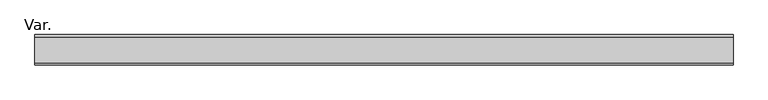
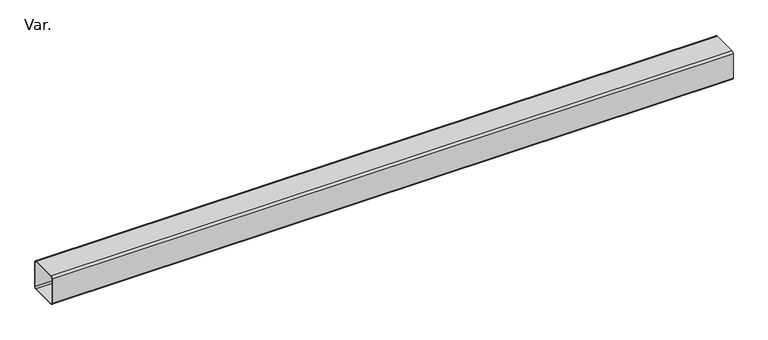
"""IFC4 building model written with IfcOpenShell, lengths in millimetres: pipe fitting geometry, PavcoWavin_UnionesDeTuberia_ZBajante Tradicional_NoUsarUnion : Var.."""

from ifc_helpers import new_model, si_unit, point, frame, frame_2d, origin, place, context, project, spatial, polyline, circle_curve, trimmed, segment, composite_curve, outline, extrude, source, transform, mapped, element, save


def var_3a2b953e(model_context):
    return source(origin(), model_context, "Body", "SweptSolid", [
        extrude(outline(composite_curve([segment(polyline([(32.665, 28.145), (32.665, -28.145)]), True, "CONTINUOUS"), segment(trimmed(circle_curve(frame_2d((28.145, -28.145)), 4.52), [point((32.665, -28.145))], [point((28.145, -32.665))], False, "CARTESIAN"), True, "CONTINUOUS"), segment(polyline([(28.145, -32.665), (-28.145, -32.665)]), True, "CONTINUOUS"), segment(trimmed(circle_curve(frame_2d((-28.145, -28.145)), 4.52), [point((-28.145, -32.665))], [point((-32.665, -28.145))], False, "CARTESIAN"), True, "CONTINUOUS"), segment(polyline([(-32.665, -28.145), (-32.665, 28.145)]), True, "CONTINUOUS"), segment(trimmed(circle_curve(frame_2d((-28.145, 28.145)), 4.52), [point((-32.665, 28.145))], [point((-28.145, 32.665))], False, "CARTESIAN"), True, "CONTINUOUS"), segment(polyline([(-28.145, 32.665), (28.145, 32.665)]), True, "CONTINUOUS"), segment(trimmed(circle_curve(frame_2d((28.145, 28.145)), 4.52), [point((28.145, 32.665))], [point((32.665, 28.145))], False, "CARTESIAN"), True, "CONTINUOUS")], self_intersect=False), holes=[composite_curve([segment(trimmed(circle_curve(frame_2d((28.145, 28.145)), 2.97), [point((31.115, 28.145))], [point((28.145, 31.115))], True, "CARTESIAN"), True, "CONTINUOUS"), segment(polyline([(28.145, 31.115), (-28.145, 31.115)]), True, "CONTINUOUS"), segment(trimmed(circle_curve(frame_2d((-28.145, 28.145)), 2.97), [point((-28.145, 31.115))], [point((-31.115, 28.145))], True, "CARTESIAN"), True, "CONTINUOUS"), segment(polyline([(-31.115, 28.145), (-31.115, -28.145)]), True, "CONTINUOUS"), segment(trimmed(circle_curve(frame_2d((-28.145, -28.145)), 2.97), [point((-31.115, -28.145))], [point((-28.145, -31.115))], True, "CARTESIAN"), True, "CONTINUOUS"), segment(polyline([(-28.145, -31.115), (28.145, -31.115)]), True, "CONTINUOUS"), segment(trimmed(circle_curve(frame_2d((28.145, -28.145)), 2.97), [point((28.145, -31.115))], [point((31.115, -28.145))], True, "CARTESIAN"), True, "CONTINUOUS"), segment(polyline([(31.115, -28.145), (31.115, 28.145)]), True, "CONTINUOUS")], self_intersect=False)]), frame((0.0, 0.0, 0.0), z_axis=(1.0, 0.0, 0.0), x_axis=(0.0, 1.0, 0.0)), (0.0, 0.0, 1.0), 1500.0),
    ])


if __name__ == "__main__":
    model = new_model("IFC4")
    model_context = context("Model", 3, world=origin())
    ifc_project = project(units=[si_unit("LENGTHUNIT", "METRE", prefix="MILLI")], contexts=[model_context])
    site = spatial("IfcSite", under=ifc_project)
    building = spatial("IfcBuilding", under=site)
    placement = place(None, origin())
    var_shape = var_3a2b953e(model_context)
    element("IfcPipeFitting", 1, ObjectType="PavcoWavin_UnionesDeTuberia_ZBajante Tradicional_NoUsarUnion : Var.", at=placement, inside=building, context=model_context, shape_type="MappedRepresentation", body=[
        mapped(var_shape, transform((0.0, 0.0, 0.0), x_axis=(1.0, 0.0, 0.0), y_axis=(0.0, 1.0, 0.0), z_axis=(0.0, 0.0, 1.0))),
    ])
    save(model, "model.ifc")
